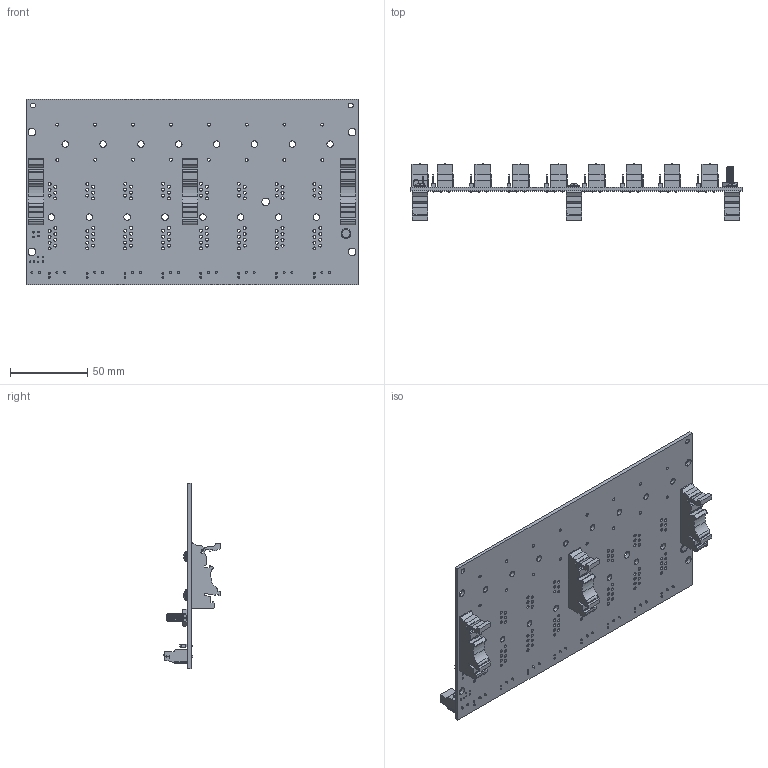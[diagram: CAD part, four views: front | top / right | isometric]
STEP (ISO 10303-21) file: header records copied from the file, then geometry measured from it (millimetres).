
FILE_DESCRIPTION (( 'STEP AP214' ), '1' );
FILE_NAME ('SCMVAS-PB8D.STEP', '2017-03-29T19:34:41', ( '' ), ( '' ), 'SwSTEP 2.0', 'SolidWorks 2017', '' );
FILE_SCHEMA (( 'AUTOMOTIVE_DESIGN' ));
Length unit declared in the file: millimetre
Products named in the file (1): SCMVAS-PB8D
Bounding box: 215.01 x 36.76 x 120.14 mm (x, y, z)
Volume: 86633 mm3; surface area: 76580.2 mm2
Topology: 72 solids, 90 shells, 3487 faces, 9089 edges, 5930 vertices
Faces by surface type: plane 2290, cylinder 801, bspline 291, cone 79, torus 14, sphere 12
Entity records: 169261 total; most frequent: CARTESIAN_POINT 45219, ORIENTED_EDGE 18174, DIRECTION 16193, EDGE_CURVE 9087, LINE 6437, VECTOR 6437, VERTEX_POINT 5930, AXIS2_PLACEMENT_3D 4878
